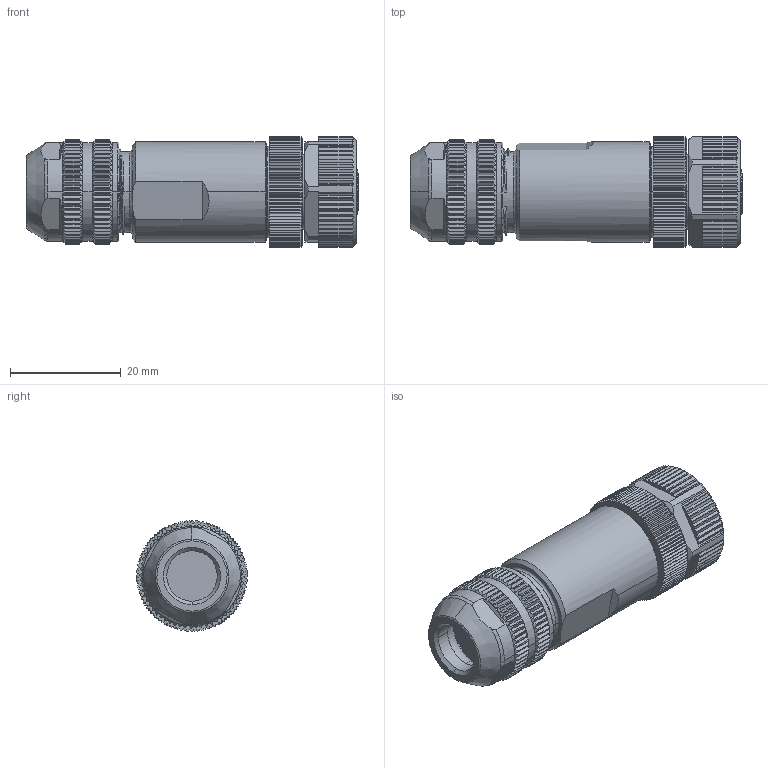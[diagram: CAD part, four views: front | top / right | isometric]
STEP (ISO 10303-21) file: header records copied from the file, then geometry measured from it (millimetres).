
FILE_DESCRIPTION (( 'STEP AP203' ), '1' );
FILE_NAME ('64F601.STEP', '2023-08-18T11:50:26', ( '' ), ( '' ), 'SwSTEP 2.0', 'SolidWorks 2016', '' );
FILE_SCHEMA (( 'CONFIG_CONTROL_DESIGN' ));
Length unit declared in the file: millimetre
Products named in the file (1): 64F601
Bounding box: 60 x 20 x 20 mm (x, y, z)
Volume: 13242.3 mm3; surface area: 6884 mm2
Topology: 1 solids, 3 shells, 1192 faces, 3560 edges, 2386 vertices
Faces by surface type: plane 622, cylinder 371, cone 156, bspline 32, torus 11
Entity records: 53063 total; most frequent: CARTESIAN_POINT 22560, ORIENTED_EDGE 7116, DIRECTION 5480, EDGE_CURVE 3558, VERTEX_POINT 2386, AXIS2_PLACEMENT_3D 1959, VECTOR 1562, LINE 1562
